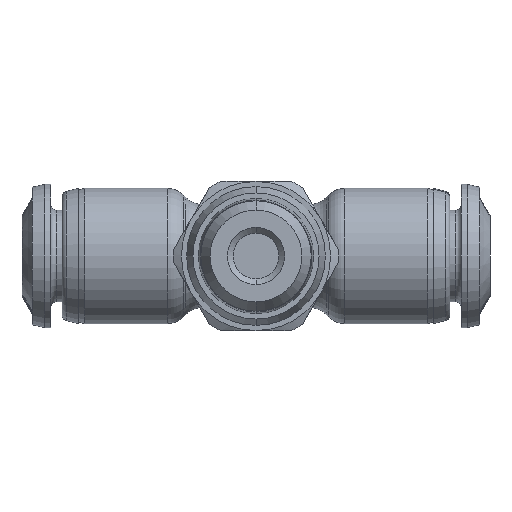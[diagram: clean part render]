
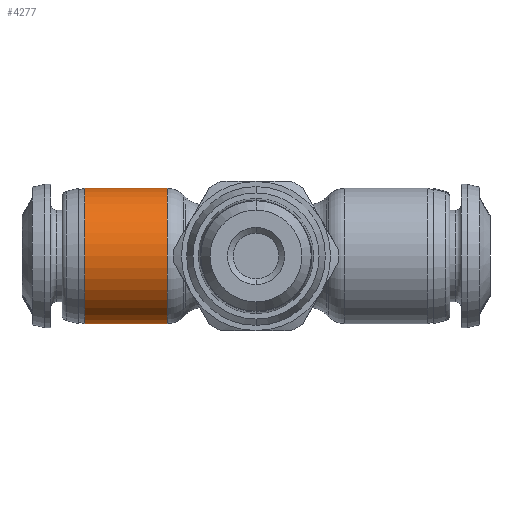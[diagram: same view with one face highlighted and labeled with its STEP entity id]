
A CAD part, front view. The second image highlights one B-rep face of the part: STEP entity #4277.
In plain terms, the highlighted cylindrical face has radius 5.9 mm (diameter 11.8 mm), a partial arc.
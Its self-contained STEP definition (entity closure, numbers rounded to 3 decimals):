
#4102 = CIRCLE ( 'NONE', #17187, 5.9 ) ;
#4104 = LINE ( 'NONE', #16636, #4109 ) ;
#4106 = CIRCLE ( 'NONE', #17190, 5.9 ) ;
#4108 = LINE ( 'NONE', #16640, #4111 ) ;
#4109 = VECTOR ( 'NONE', #16631, 1000. ) ;
#4111 = VECTOR ( 'NONE', #16641, 1000. ) ;
#4277 = ADVANCED_FACE ( 'NONE', ( #10403 ), #10411, .T. ) ;
#4322 = VERTEX_POINT ( 'NONE', #15972 ) ;
#4325 = VERTEX_POINT ( 'NONE', #15975 ) ;
#4326 = VERTEX_POINT ( 'NONE', #15976 ) ;
#5211 = VERTEX_POINT ( 'NONE', #16121 ) ;
#5703 = EDGE_LOOP ( 'NONE', ( #17407, #17408, #17409, #17410 ) ) ;
#6071 = CARTESIAN_POINT ( 'NONE',  ( 0., 0., 0. ) ) ;
#6072 = DIRECTION ( 'NONE',  ( 1., 0., 0. ) ) ;
#6080 = DIRECTION ( 'NONE',  ( 0., 0., 1. ) ) ;
#6571 = EDGE_CURVE ( 'NONE', #4326, #4325, #4102, .T. ) ;
#6574 = EDGE_CURVE ( 'NONE', #4322, #5211, #4106, .T. ) ;
#6575 = EDGE_CURVE ( 'NONE', #4322, #4326, #4104, .T. ) ;
#6576 = EDGE_CURVE ( 'NONE', #5211, #4325, #4108, .T. ) ;
#7330 = AXIS2_PLACEMENT_3D ( 'NONE', #6071, #6072, #6080 ) ;
#10403 = FACE_OUTER_BOUND ( 'NONE', #5703, .T. ) ;
#10411 = CYLINDRICAL_SURFACE ( 'NONE', #7330, 5.9 ) ;
#15972 = CARTESIAN_POINT ( 'NONE',  ( -14.94, 0., -5.9 ) ) ;
#15975 = CARTESIAN_POINT ( 'NONE',  ( -7.757, 0., 5.9 ) ) ;
#15976 = CARTESIAN_POINT ( 'NONE',  ( -7.757, 0., -5.9 ) ) ;
#16121 = CARTESIAN_POINT ( 'NONE',  ( -14.94, 0., 5.9 ) ) ;
#16624 = CARTESIAN_POINT ( 'NONE',  ( -7.757, 0., 0. ) ) ;
#16625 = DIRECTION ( 'NONE',  ( -1., 0., 0. ) ) ;
#16626 = DIRECTION ( 'NONE',  ( 0., 0., 1. ) ) ;
#16631 = DIRECTION ( 'NONE',  ( 1., 0., 0. ) ) ;
#16636 = CARTESIAN_POINT ( 'NONE',  ( 0., 0., -5.9 ) ) ;
#16637 = CARTESIAN_POINT ( 'NONE',  ( -14.94, 0., 0. ) ) ;
#16638 = DIRECTION ( 'NONE',  ( -1., 0., 0. ) ) ;
#16639 = DIRECTION ( 'NONE',  ( 0., 0., 1. ) ) ;
#16640 = CARTESIAN_POINT ( 'NONE',  ( 0., 0., 5.9 ) ) ;
#16641 = DIRECTION ( 'NONE',  ( 1., 0., 0. ) ) ;
#17187 = AXIS2_PLACEMENT_3D ( 'NONE', #16624, #16625, #16626 ) ;
#17190 = AXIS2_PLACEMENT_3D ( 'NONE', #16637, #16638, #16639 ) ;
#17407 = ORIENTED_EDGE ( 'NONE', *, *, #6574, .F. ) ;
#17408 = ORIENTED_EDGE ( 'NONE', *, *, #6575, .T. ) ;
#17409 = ORIENTED_EDGE ( 'NONE', *, *, #6571, .T. ) ;
#17410 = ORIENTED_EDGE ( 'NONE', *, *, #6576, .F. ) ;
